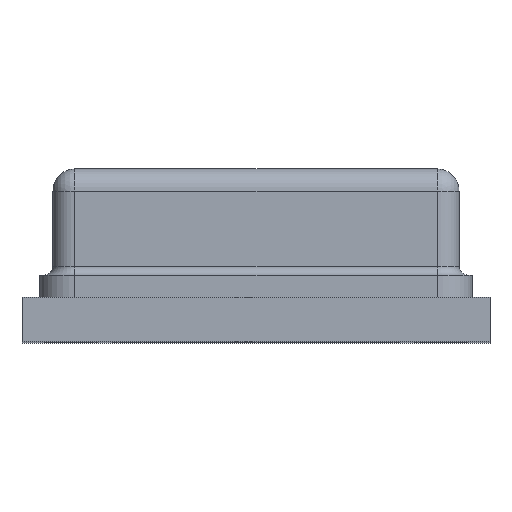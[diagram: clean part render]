
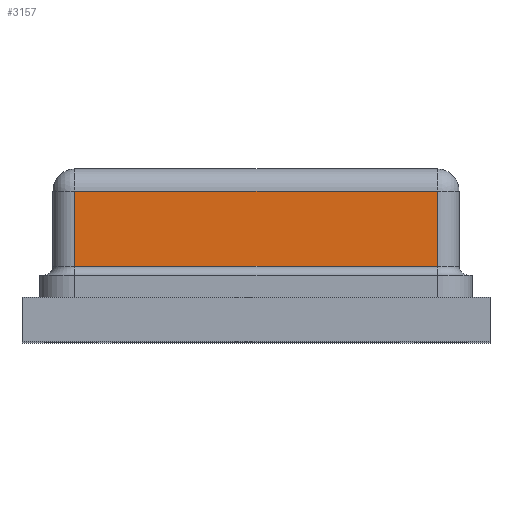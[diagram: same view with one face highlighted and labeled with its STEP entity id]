
A CAD part, top view. The second image highlights one B-rep face of the part: STEP entity #3157.
In plain terms, the highlighted planar face has unit normal (0, 0, 1).
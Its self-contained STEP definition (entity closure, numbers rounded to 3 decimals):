
#105 = LINE ( 'NONE', #620, #1553 ) ;
#122 = DIRECTION ( 'NONE',  ( 0., 0., -1. ) ) ;
#284 = VERTEX_POINT ( 'NONE', #1434 ) ;
#288 = DIRECTION ( 'NONE',  ( 1., 0., 0. ) ) ;
#471 = CARTESIAN_POINT ( 'NONE',  ( -1.025, 0.855, 1.575 ) ) ;
#481 = CARTESIAN_POINT ( 'NONE',  ( -1.025, 5.86, 1.575 ) ) ;
#519 = ORIENTED_EDGE ( 'NONE', *, *, #712, .T. ) ;
#620 = CARTESIAN_POINT ( 'NONE',  ( -1.025, 0.855, 1.575 ) ) ;
#637 = DIRECTION ( 'NONE',  ( -1., 0., 0. ) ) ;
#710 = DIRECTION ( 'NONE',  ( -1., 0., 0. ) ) ;
#712 = EDGE_CURVE ( 'NONE', #2238, #2692, #1942, .T. ) ;
#771 = CARTESIAN_POINT ( 'NONE',  ( -1.025, 0.429, 1.575 ) ) ;
#815 = VECTOR ( 'NONE', #288, 1000. ) ;
#841 = CARTESIAN_POINT ( 'NONE',  ( 1.025, 0.429, 1.575 ) ) ;
#934 = ORIENTED_EDGE ( 'NONE', *, *, #2003, .F. ) ;
#1289 = AXIS2_PLACEMENT_3D ( 'NONE', #2721, #122, #710 ) ;
#1434 = CARTESIAN_POINT ( 'NONE',  ( 1.025, 0.855, 1.575 ) ) ;
#1553 = VECTOR ( 'NONE', #637, 1000. ) ;
#1625 = PLANE ( 'NONE',  #1289 ) ;
#1685 = VECTOR ( 'NONE', #2537, 1000. ) ;
#1731 = CARTESIAN_POINT ( 'NONE',  ( 1.025, 5.86, 1.575 ) ) ;
#1942 = LINE ( 'NONE', #481, #1685 ) ;
#1997 = LINE ( 'NONE', #841, #815 ) ;
#2003 = EDGE_CURVE ( 'NONE', #284, #2088, #3377, .T. ) ;
#2082 = ORIENTED_EDGE ( 'NONE', *, *, #2109, .T. ) ;
#2088 = VERTEX_POINT ( 'NONE', #3661 ) ;
#2109 = EDGE_CURVE ( 'NONE', #284, #2238, #105, .T. ) ;
#2238 = VERTEX_POINT ( 'NONE', #471 ) ;
#2461 = EDGE_LOOP ( 'NONE', ( #519, #2558, #934, #2082 ) ) ;
#2537 = DIRECTION ( 'NONE',  ( 0., -1., 0. ) ) ;
#2558 = ORIENTED_EDGE ( 'NONE', *, *, #3634, .T. ) ;
#2692 = VERTEX_POINT ( 'NONE', #771 ) ;
#2721 = CARTESIAN_POINT ( 'NONE',  ( -1.025, 5.86, 1.575 ) ) ;
#2738 = FACE_OUTER_BOUND ( 'NONE', #2461, .T. ) ;
#2866 = VECTOR ( 'NONE', #3127, 1000. ) ;
#3127 = DIRECTION ( 'NONE',  ( 0., -1., 0. ) ) ;
#3157 = ADVANCED_FACE ( 'NONE', ( #2738 ), #1625, .F. ) ;
#3377 = LINE ( 'NONE', #1731, #2866 ) ;
#3634 = EDGE_CURVE ( 'NONE', #2692, #2088, #1997, .T. ) ;
#3661 = CARTESIAN_POINT ( 'NONE',  ( 1.025, 0.429, 1.575 ) ) ;
